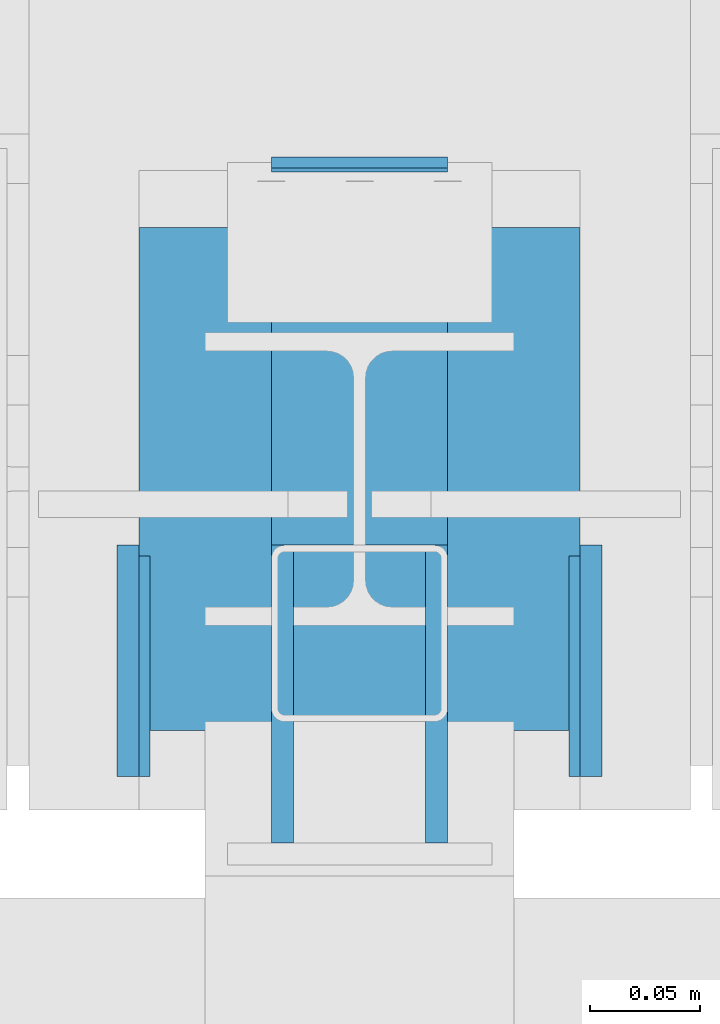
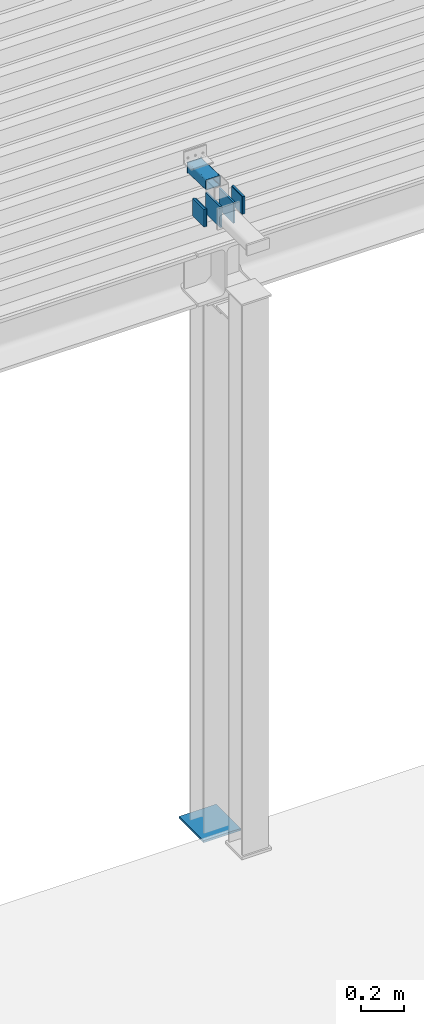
# One storey, part 6 of 34: 8 beams, 1 member.
"""IFC2X3 building model written with IfcOpenShell, lengths in millimetres."""

import ifcopenshell
import ifcopenshell.guid

model = None  # the IFC model being written
_history = None  # IfcOwnerHistory: only IFC2X3 demands one
_inside = {}  # id of a spatial element -> (the spatial element, [elements in it])
_under = {}  # id of a project, library or spatial element -> (it, [spatial elements below it])
_declared = {}  # id of a project -> (the project, [libraries it declares])
_typed = {}  # id of a type object -> (the type object, [elements of that type])
_made_of = {}  # id of a material, layer set ... -> (it, [elements and type objects made of it])


def new_model(schema):
    """Start an empty IFC model of exactly this schema.

    Asked for "IFC4X3", IfcOpenShell would pick the latest addendum, in which some entities
    have other attributes; the version numbers below select the first issue.
    IFC2X3 requires an IfcOwnerHistory on every rooted entity: one is made here for all.
    """
    global model, _history
    if schema == "IFC4X3":
        model = ifcopenshell.file(schema_version=(4, 3, 0, 0))
    else:
        model = ifcopenshell.file(schema=schema)
    _inside.clear()
    _under.clear()
    _declared.clear()
    _typed.clear()
    _made_of.clear()
    _history = None
    if model.schema == "IFC2X3":
        org = make("IfcOrganization", Name="unknown")
        user = make(
            "IfcPersonAndOrganization",
            ThePerson=make("IfcPerson", FamilyName="unknown"),
            TheOrganization=org,
        )
        app = make(
            "IfcApplication",
            ApplicationDeveloper=org,
            Version="unknown",
            ApplicationFullName="unknown",
            ApplicationIdentifier="unknown",
        )
        _history = make(
            "IfcOwnerHistory",
            OwningUser=user,
            OwningApplication=app,
            ChangeAction="ADDED",
            CreationDate=0,
        )
    return model


def make(cls, **values):
    """One entity of the class cls with the attributes given. An attribute that is None is left unset."""
    return model.create_entity(
        cls, **{name: value for name, value in values.items() if value is not None}
    )


def entity(cls, *values):
    """Any entity or typed value of the class cls, its attributes in the order of the schema. None: left unset."""
    e = model.create_entity(cls)
    for i, value in enumerate(values):
        if value is not None:
            e[i] = value
    return e


def rooted(cls, **values):
    """An entity with a GlobalId (a new one), such as an element, a storey or a relation."""
    return make(cls, GlobalId=ifcopenshell.guid.new(), OwnerHistory=_history, **values)


def si_unit(unit_type, name, prefix=None):
    """IfcSIUnit, for example si_unit("LENGTHUNIT", "METRE", prefix="MILLI")."""
    return make("IfcSIUnit", UnitType=unit_type, Prefix=prefix, Name=name)


def converted_unit(unit_type, name, factor, base, dimensions=None, offset=None):
    """IfcConversionBasedUnit, such as the inch: factor (a typed value) times the base unit."""
    return make(
        "IfcConversionBasedUnit"
        if offset is None
        else "IfcConversionBasedUnitWithOffset",
        ConversionOffset=offset,
        Dimensions=None
        if dimensions is None
        else entity("IfcDimensionalExponents", *dimensions),
        UnitType=unit_type,
        Name=name,
        ConversionFactor=make(
            "IfcMeasureWithUnit", ValueComponent=factor, UnitComponent=base
        ),
    )


def derived_unit(unit_type, elements):
    """IfcDerivedUnit: a product of units, each with its exponent."""
    return make(
        "IfcDerivedUnit",
        Elements=[
            make("IfcDerivedUnitElement", Unit=unit, Exponent=power)
            for unit, power in elements
        ],
        UnitType=unit_type,
    )


def assignment(units):
    """IfcUnitAssignment: the units of a project."""
    return None if units is None else make("IfcUnitAssignment", Units=units)


def point(xyz):
    """IfcCartesianPoint."""
    return None if xyz is None else make("IfcCartesianPoint", Coordinates=xyz)


def direction(xyz):
    """IfcDirection."""
    return None if xyz is None else make("IfcDirection", DirectionRatios=xyz)


def frame(location, z_axis=None, x_axis=None):
    """IfcAxis2Placement3D, a coordinate frame: its origin and axes. An axis left out is left unset."""
    return make(
        "IfcAxis2Placement3D",
        Location=point(location),
        Axis=direction(z_axis),
        RefDirection=direction(x_axis),
    )


def frame_2d(location, x_axis=None):
    """IfcAxis2Placement2D, a coordinate frame in the plane: its origin and x axis."""
    return make(
        "IfcAxis2Placement2D", Location=point(location), RefDirection=direction(x_axis)
    )


def origin_with_axes():
    """The frame at (0, 0, 0) with the z axis (0, 0, 1) and the x axis (1, 0, 0) written out."""
    return frame((0.0, 0.0, 0.0), z_axis=(0.0, 0.0, 1.0), x_axis=(1.0, 0.0, 0.0))


def origin_2d_with_axis():
    """The frame at (0, 0) in the plane with the x axis (1, 0) written out."""
    return frame_2d((0.0, 0.0), x_axis=(1.0, 0.0))


def place(relative_to, where):
    """IfcLocalPlacement: puts the frame where relative to a parent placement (None: the world)."""
    return make(
        "IfcLocalPlacement", PlacementRelTo=relative_to, RelativePlacement=where
    )


def context(
    kind, dimensions, precision=None, world=None, true_north=None, identifier=None
):
    """IfcGeometricRepresentationContext, for example the 3D "Model" context."""
    return make(
        "IfcGeometricRepresentationContext",
        ContextIdentifier=identifier,
        ContextType=kind,
        CoordinateSpaceDimension=dimensions,
        Precision=precision,
        WorldCoordinateSystem=world,
        TrueNorth=true_north,
    )


def subcontext(parent, identifier, kind, view, scale=None):
    """IfcGeometricRepresentationSubContext, for example "Body" below "Model"."""
    return make(
        "IfcGeometricRepresentationSubContext",
        ContextIdentifier=identifier,
        ContextType=kind,
        ParentContext=parent,
        TargetScale=scale,
        TargetView=view,
    )


def project(units=None, contexts=None):
    """IfcProject with its units and contexts."""
    return rooted(
        "IfcProject",
        Name="project",
        RepresentationContexts=contexts,
        UnitsInContext=assignment(units),
    )


def spatial(cls, under=None, at=None, **own):
    """A site, building, storey or space (cls), placed at a placement, below another one or the project."""
    s = rooted(cls, ObjectPlacement=at, **own)
    if under is not None:
        _under.setdefault(under.id(), (under, []))[1].append(s)
    return s


def profile(cls, at=None, kind="AREA", **sizes):
    """A parametric profile (cls). Its sizes go by their IFC names, for example OverallWidth=200.0."""
    return make(cls, ProfileType=kind, Position=at, **sizes)


def rectangle(**sizes):
    """IfcRectangleProfileDef."""
    return profile("IfcRectangleProfileDef", **sizes)


def hollow_rectangle(**sizes):
    """IfcRectangleHollowProfileDef."""
    return profile("IfcRectangleHollowProfileDef", **sizes)


def extrude(swept, where, along, depth):
    """IfcExtrudedAreaSolid: the profile swept, set in the frame where, extruded along a direction by depth."""
    return make(
        "IfcExtrudedAreaSolid",
        SweptArea=swept,
        Position=where,
        ExtrudedDirection=direction(along),
        Depth=depth,
    )


def clip(a, b, op="DIFFERENCE"):
    """IfcBooleanClippingResult: the solid a cut by the half space b."""
    return make(
        "IfcBooleanClippingResult", Operator=op, FirstOperand=a, SecondOperand=b
    )


def halfspace(plane, agree):
    """IfcHalfSpaceSolid: all space on one side of the plane z = 0 of the frame plane."""
    return make(
        "IfcHalfSpaceSolid",
        BaseSurface=make("IfcPlane", Position=plane),
        AgreementFlag=agree,
    )


def shape(context_of_items, identifier, shape_type, items):
    """IfcShapeRepresentation: the items that make up one representation, for example the "Body"."""
    return make(
        "IfcShapeRepresentation",
        ContextOfItems=context_of_items,
        RepresentationIdentifier=identifier,
        RepresentationType=shape_type,
        Items=items,
    )


def material(Name=None, Category=None):
    """IfcMaterial."""
    return make("IfcMaterial", Name=Name, Category=Category)


def made_of(thing, what):
    """Note that an element or type object is made of a material, layer set ...; save() writes the relation."""
    if what is not None:
        _made_of.setdefault(what.id(), (what, []))[1].append(thing)
    return thing


def type_object(cls, material=None, **own):
    """A type object (cls), such as IfcWallType, which elements share."""
    return made_of(rooted(cls, **own), material)


def element(
    cls,
    number,
    at=None,
    inside=None,
    cuts=None,
    type_object=None,
    material=None,
    context=None,
    identifier="Body",
    shape_type=None,
    held_by="IfcProductDefinitionShape",
    body=None,
    shapes=None,
    **own,
):
    """One element of the class cls, such as IfcWall. Its Tag is "e" and its number.

    at: its placement. inside: the storey or other place that contains it. cuts: it is an
    opening in that element (IfcRelVoidsElement). A single representation is given by context,
    identifier, shape_type and body (its items); several are given by shapes. held_by: the class
    of the entity that holds the representations. save() writes the other relations.
    """
    e = rooted(cls, Tag="e%d" % number, ObjectPlacement=at, **own)
    if body is not None:
        shapes = [shape(context, identifier, shape_type, body)]
    if shapes is not None:
        e.Representation = make(held_by, Representations=shapes)
    if inside is not None:
        _inside.setdefault(inside.id(), (inside, []))[1].append(e)
    if cuts is not None:
        rooted(
            "IfcRelVoidsElement", RelatingBuildingElement=cuts, RelatedOpeningElement=e
        )
    if type_object is not None:
        _typed.setdefault(type_object.id(), (type_object, []))[1].append(e)
    return made_of(e, material)


def aggregate(whole, parts):
    """IfcRelAggregates: a whole, such as a stair, and the parts it consists of."""
    return rooted("IfcRelAggregates", RelatingObject=whole, RelatedObjects=parts)


def save(model, path):
    """Write the relations noted so far, then the file.

    IfcRelAggregates (storeys below a building ...), IfcRelContainedInSpatialStructure (elements
    in a storey), IfcRelDefinesByType, IfcRelAssociatesMaterial and IfcRelDeclares: one each for
    every whole, place, type object, material and project.
    """
    for whole, parts in _under.values():
        aggregate(whole, parts)
    for where, things in _inside.values():
        rooted(
            "IfcRelContainedInSpatialStructure",
            RelatedElements=things,
            RelatingStructure=where,
        )
    for kind, things in _typed.values():
        rooted("IfcRelDefinesByType", RelatedObjects=things, RelatingType=kind)
    for what, things in _made_of.values():
        rooted("IfcRelAssociatesMaterial", RelatedObjects=things, RelatingMaterial=what)
    for by, libraries in _declared.values():
        rooted("IfcRelDeclares", RelatingContext=by, RelatedDefinitions=libraries)
    model.write(path)


model = new_model("IFC2X3")

# Units and contexts
model_context = context("Model", 3, precision=0.01, world=frame((0.0, 4.29681676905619e-09, 0.0)), true_north=direction((4.01073788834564e-13, 1.0)))
plan_context = context("Plan", 3, precision=0.01, world=frame((0.0, 4.29681676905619e-09, 0.0)), true_north=direction((4.01073788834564e-13, 1.0)))
body_context = subcontext(model_context, "Body", "Model", "MODEL_VIEW")
ifc_project = project(units=[converted_unit("PLANEANGLEUNIT", "DEGREE", entity("IfcPositiveLengthMeasure", 0.0174532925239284), si_unit("PLANEANGLEUNIT", "RADIAN"), dimensions=[0, 0, 0, 0, 0, 0, 0]), si_unit("AREAUNIT", "SQUARE_METRE"), si_unit("LENGTHUNIT", "METRE", prefix="MILLI"), si_unit("MASSUNIT", "GRAM", prefix="KILO"), si_unit("POWERUNIT", "WATT"), si_unit("PRESSUREUNIT", "PASCAL"), si_unit("FORCEUNIT", "NEWTON", prefix="KILO"), si_unit("ELECTRICVOLTAGEUNIT", "VOLT"), si_unit("ELECTRICCURRENTUNIT", "AMPERE"), si_unit("THERMODYNAMICTEMPERATUREUNIT", "DEGREE_CELSIUS"), si_unit("TIMEUNIT", "SECOND"), si_unit("VOLUMEUNIT", "CUBIC_METRE"), derived_unit("LINEARVELOCITYUNIT", [(si_unit("LENGTHUNIT", "METRE"), 1), (si_unit("TIMEUNIT", "SECOND"), -1)]), derived_unit("VOLUMETRICFLOWRATEUNIT", [(si_unit("VOLUMEUNIT", "CUBIC_METRE"), 1), (si_unit("TIMEUNIT", "SECOND"), -1)]), derived_unit("THERMALTRANSMITTANCEUNIT", [(si_unit("POWERUNIT", "WATT"), 1), (si_unit("THERMODYNAMICTEMPERATUREUNIT", "KELVIN"), -1), (si_unit("AREAUNIT", "SQUARE_METRE"), -1)]), derived_unit("SOUNDPRESSUREUNIT", [(si_unit("PRESSUREUNIT", "PASCAL"), 1)])], contexts=[model_context, plan_context])

# Site, building, storey
site_placement = place(None, frame((0.0, -4.29681676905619e-09, 0.0), z_axis=(0.0, 0.0, 1.0), x_axis=(1.0, 0.0, 0.0)))
site = spatial("IfcSite", under=ifc_project, at=site_placement, Name="Gardermoen", CompositionType="ELEMENT")
building_placement = place(site_placement, frame((0.0, 4.29681676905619e-09, 0.0), z_axis=(0.0, 0.0, 1.0), x_axis=(1.0, 0.0, 0.0)))
building = spatial("IfcBuilding", under=site, at=building_placement, Name="TH", CompositionType="ELEMENT")
storey_placement = place(building_placement, origin_with_axes())
storey = spatial("IfcBuildingStorey", under=building, at=storey_placement, Name="F", CompositionType="ELEMENT", Elevation=0.0)

# Beams
ifc_material_1 = material(Name="STEEL/S355")
beam_type_1 = type_object("IfcBeamType", Name="PL10*100", PredefinedType="NOTDEFINED")
for number, where, z_axis, x_axis in (
    (1, (897895.000000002, 484864.999999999, 213599.998875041), (0.0, 0.0, 1.0), (0.0, 1.0, 0.0)),
    (2, (898105.000000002, 484864.999999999, 213599.998875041), (0.0, 0.0, 1.0), (0.0, 1.0, 0.0)),
):
    element("IfcBeam", number, at=place(storey_placement, frame(where, z_axis=z_axis, x_axis=x_axis)), inside=storey, type_object=beam_type_1, material=ifc_material_1, Name="STÅLSPESIAL", ObjectType="PL10*100", context=body_context, shape_type="SweptSolid", body=[
        extrude(rectangle(XDim=10.0, YDim=100.0, at=origin_2d_with_axis()), frame((105.000000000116, 0.0, 0.0), z_axis=(-1.0, 0.0, 6.61744490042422e-24), x_axis=(0.0, -1.0, 0.0)), (0.0, 0.0, 1.0), 105.0),
    ])
ifc_material_2 = material(Name="STEEL/AISI304")
beam_type_2 = type_object("IfcBeamType", Name="PL5*100", PredefinedType="NOTDEFINED")
for number, where, z_axis, x_axis in (
    (3, (897902.500000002, 484864.999999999, 213599.998875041), (0.0, 0.0, 1.0), (0.0, 1.0, 0.0)),
    (4, (898097.500000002, 484864.999999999, 213599.998875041), (0.0, 0.0, 1.0), (0.0, 1.0, 0.0)),
):
    element("IfcBeam", number, at=place(storey_placement, frame(where, z_axis=z_axis, x_axis=x_axis)), inside=storey, type_object=beam_type_2, material=ifc_material_2, Name="STÅLMONTASJE", ObjectType="PL5*100", context=body_context, shape_type="SweptSolid", body=[
        extrude(rectangle(XDim=5.0, YDim=100.0, at=origin_2d_with_axis()), frame((100.0, 0.0, 0.0), z_axis=(-1.0, 0.0, 6.61744490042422e-24), x_axis=(0.0, -1.0, 0.0)), (0.0, 0.0, 1.0), 100.0),
    ])
beam_type_3 = type_object("IfcBeamType", Name="PL10*120", PredefinedType="NOTDEFINED")
for number, where, z_axis, x_axis in (
    (5, (897965.000000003, 484834.999999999, 213599.998875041), (0.0, 0.0, 1.0), (0.0, 1.0, 0.0)),
    (6, (898035.000000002, 484834.999999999, 213599.998875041), (0.0, 0.0, 1.0), (0.0, 1.0, 0.0)),
):
    element("IfcBeam", number, at=place(storey_placement, frame(where, z_axis=z_axis, x_axis=x_axis)), inside=storey, type_object=beam_type_3, material=ifc_material_1, Name="STÅLSPESIAL", ObjectType="PL10*120", context=body_context, shape_type="SweptSolid", body=[
        extrude(rectangle(XDim=10.0, YDim=120.0, at=origin_2d_with_axis()), frame((135.0, 0.0, 0.0), z_axis=(-1.0, 0.0, 6.61744490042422e-24), x_axis=(0.0, -1.0, 0.0)), (0.0, 0.0, 1.0), 135.0),
    ])
beam_type_4 = type_object("IfcBeamType", Name="RHS80*60*4", PredefinedType="NOTDEFINED")
beam_1_placement = place(storey_placement, frame((898000.000000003, 484969.123181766, 213700.011691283), z_axis=(-1.0, 1.93327255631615e-25, 6.61179205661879e-24), x_axis=(0.0, 0.999572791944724, -0.0292272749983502)))
element("IfcBeam", 7, at=beam_1_placement, inside=storey, type_object=beam_type_4, material=ifc_material_2, Name="STÅLSPESIAL", ObjectType="RHS80*60*4", context=body_context, shape_type="Clipping", body=[
    clip(extrude(hollow_rectangle(XDim=60.0, YDim=80.0, WallThickness=4.0, InnerFilletRadius=4.0, OuterFilletRadius=8.0, at=origin_2d_with_axis()), frame((171.073083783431, 5.9352898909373e-16, 0.0), z_axis=(-1.0, 0.0, 6.61744490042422e-24), x_axis=(0.0, -1.0, 0.0)), (0.0, 0.0, 1.0), 172.85), halfspace(frame((1.03458559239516, 5.38282738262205, -39.9999999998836), z_axis=(0.999572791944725, -0.029227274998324, 0.0), x_axis=(-0.029227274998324, -0.999572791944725, 0.0)), True)),
])
beam_type_5 = type_object("IfcBeamType", Name="PL12*200", PredefinedType="NOTDEFINED")
beam_2_placement = place(storey_placement, frame((898000.000000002, 484885.995625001, 210046.0), z_axis=(-1.0, 0.0, 6.61744490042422e-24), x_axis=(0.0, 1.0, 0.0)))
element("IfcBeam", 8, at=beam_2_placement, inside=storey, type_object=beam_type_5, material=ifc_material_1, Name="STÅLSØYLE", ObjectType="PL12*200", context=body_context, shape_type="SweptSolid", body=[
    extrude(rectangle(XDim=12.0, YDim=200.0, at=origin_2d_with_axis()), frame((228.0, 0.0, 0.0), z_axis=(-1.0, 0.0, 6.61744490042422e-24), x_axis=(0.0, -1.0, 0.0)), (0.0, 0.0, 1.0), 228.0),
])

# Member
member_type = type_object("IfcMemberType", Name="PL5*80", PredefinedType="NOTDEFINED")
member_placement = place(storey_placement, frame((898000.000000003, 485141.74529549, 213664.951439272), z_axis=(-1.0, -1.93327255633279e-25, 5.65284380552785e-27), x_axis=(0.0, 0.029227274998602, 0.999572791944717)))
element("IfcMember", 9, at=member_placement, inside=storey, type_object=member_type, material=ifc_material_2, Name="STÅLSPESIAL", ObjectType="PL5*80", context=body_context, shape_type="SweptSolid", body=[
    extrude(rectangle(XDim=5.0, YDim=80.0, at=origin_2d_with_axis()), frame((59.9999999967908, -5.82043302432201e-11, 2.91038304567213e-11), z_axis=(-1.0, 0.0, 6.61744490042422e-24), x_axis=(0.0, -1.0, 0.0)), (0.0, 0.0, 1.0), 60.0),
])

save(model, "model.ifc")
